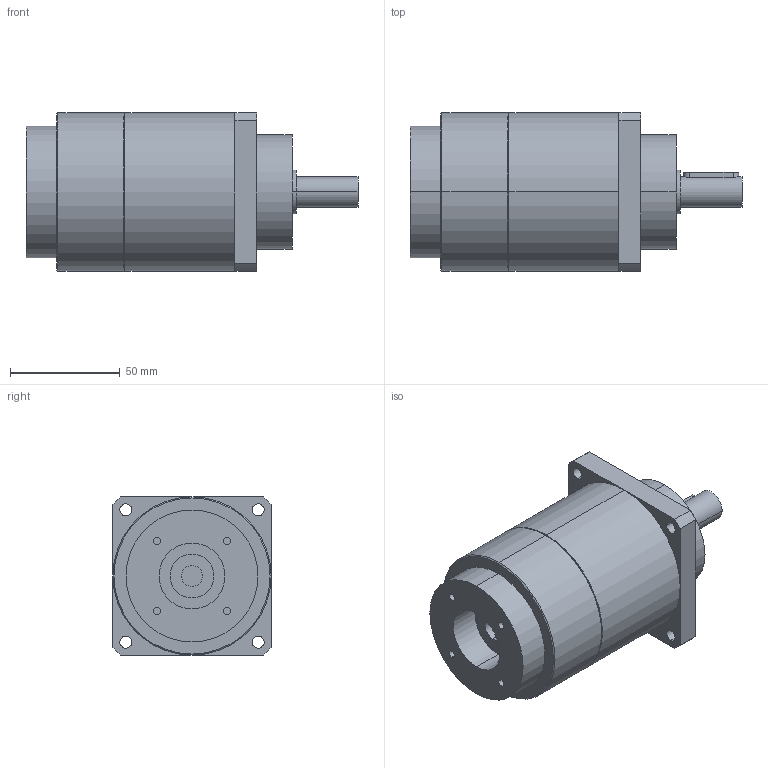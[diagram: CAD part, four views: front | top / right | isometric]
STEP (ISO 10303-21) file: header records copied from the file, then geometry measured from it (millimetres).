
FILE_DESCRIPTION(('CoCreate Modeling STEP Export'),'2;1');
FILE_NAME('GPT75_ig-9-12-16-20-25-28-35-40-50-70-100_14_B5T_9.52_P16.stp','2014-08-27T13:42:26',(''),(''),'CoCreate Modeling STEP processor for AP214 (Solid Model)','CoCreate Modeling 16.00C 25-Feb-2009 (C) Parametric Technology GmbH','');
FILE_SCHEMA(('AUTOMOTIVE_DESIGN { 1 0 10303 214 1 1 1 1 }'));
Length unit declared in the file: millimetre
Products named in the file (2): GPT75_ig-9-12-16-20-25-28-35-40-50-70-100_14_B5T_9.52_P16
Assembly tree (1 placements, depth 2):
  GPT75_ig-9-12-16-20-25-28-35-40-50-70-100_14_B5T_9.52_P16
    GPT75_ig-9-12-16-20-25-28-35-40-50-70-100_14_B5T_9.52_P16
Bounding box: 151 x 72 x 72 mm (x, y, z)
Volume: 447298.7 mm3; surface area: 42074.6 mm2
Topology: 1 solids, 1 shells, 72 faces, 170 edges, 113 vertices
Faces by surface type: cylinder 42, plane 26, cone 4
Entity records: 2201 total; most frequent: CARTESIAN_POINT 669, ORIENTED_EDGE 340, DIRECTION 268, EDGE_CURVE 170, VERTEX_POINT 113, AXIS2_PLACEMENT_3D 100, EDGE_LOOP 93, FACE_OUTER_BOUND 72
